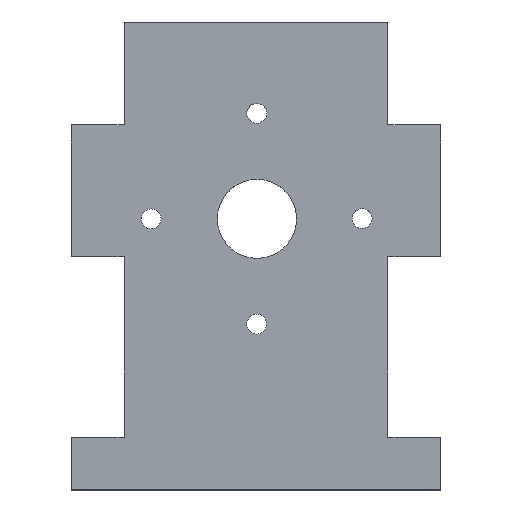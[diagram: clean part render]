
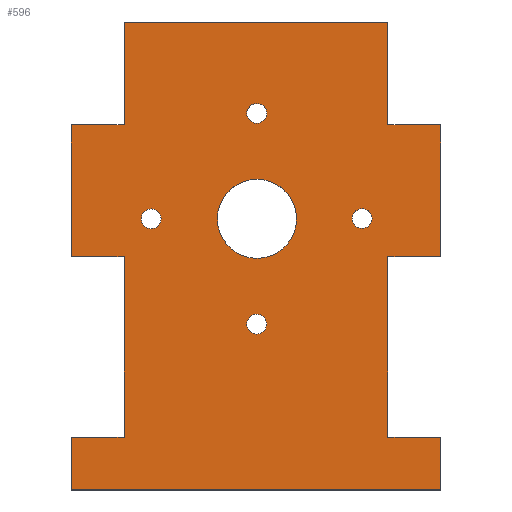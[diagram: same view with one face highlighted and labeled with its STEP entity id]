
A CAD part, top view. The second image highlights one B-rep face of the part: STEP entity #596.
In plain terms, the highlighted planar face has unit normal (0, 0, 1).
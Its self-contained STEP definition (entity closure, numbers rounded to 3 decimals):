
#19=FACE_BOUND('',#121,.T.);
#20=FACE_BOUND('',#122,.T.);
#21=FACE_BOUND('',#123,.T.);
#22=FACE_BOUND('',#124,.T.);
#23=FACE_BOUND('',#125,.T.);
#45=PLANE('',#659);
#85=FACE_OUTER_BOUND('',#120,.T.);
#120=EDGE_LOOP('',(#521,#522,#523,#524,#525,#526,#527,#528,#529,#530,#531,
#532,#533,#534,#535,#536));
#121=EDGE_LOOP('',(#537));
#122=EDGE_LOOP('',(#538));
#123=EDGE_LOOP('',(#539));
#124=EDGE_LOOP('',(#540));
#125=EDGE_LOOP('',(#541));
#147=LINE('',#896,#208);
#150=LINE('',#902,#211);
#153=LINE('',#908,#214);
#156=LINE('',#914,#217);
#159=LINE('',#920,#220);
#162=LINE('',#926,#223);
#165=LINE('',#932,#226);
#168=LINE('',#938,#229);
#171=LINE('',#944,#232);
#174=LINE('',#950,#235);
#177=LINE('',#956,#238);
#180=LINE('',#962,#241);
#183=LINE('',#968,#244);
#186=LINE('',#974,#247);
#189=LINE('',#980,#250);
#192=LINE('',#984,#253);
#208=VECTOR('',#742,10.);
#211=VECTOR('',#747,10.);
#214=VECTOR('',#752,10.);
#217=VECTOR('',#757,10.);
#220=VECTOR('',#762,10.);
#223=VECTOR('',#767,10.);
#226=VECTOR('',#772,10.);
#229=VECTOR('',#777,10.);
#232=VECTOR('',#782,10.);
#235=VECTOR('',#787,10.);
#238=VECTOR('',#792,10.);
#241=VECTOR('',#797,10.);
#244=VECTOR('',#802,10.);
#247=VECTOR('',#807,10.);
#250=VECTOR('',#812,10.);
#253=VECTOR('',#817,10.);
#262=CIRCLE('',#629,3.);
#264=CIRCLE('',#632,0.75);
#266=CIRCLE('',#635,0.75);
#268=CIRCLE('',#638,0.75);
#270=CIRCLE('',#641,0.75);
#284=VERTEX_POINT('',#860);
#286=VERTEX_POINT('',#866);
#288=VERTEX_POINT('',#872);
#290=VERTEX_POINT('',#878);
#292=VERTEX_POINT('',#884);
#296=VERTEX_POINT('',#893);
#297=VERTEX_POINT('',#895);
#299=VERTEX_POINT('',#901);
#301=VERTEX_POINT('',#907);
#303=VERTEX_POINT('',#913);
#305=VERTEX_POINT('',#919);
#307=VERTEX_POINT('',#925);
#309=VERTEX_POINT('',#931);
#311=VERTEX_POINT('',#937);
#313=VERTEX_POINT('',#943);
#315=VERTEX_POINT('',#949);
#317=VERTEX_POINT('',#955);
#319=VERTEX_POINT('',#961);
#321=VERTEX_POINT('',#967);
#323=VERTEX_POINT('',#973);
#325=VERTEX_POINT('',#979);
#342=EDGE_CURVE('',#284,#284,#262,.T.);
#345=EDGE_CURVE('',#286,#286,#264,.T.);
#348=EDGE_CURVE('',#288,#288,#266,.T.);
#351=EDGE_CURVE('',#290,#290,#268,.T.);
#354=EDGE_CURVE('',#292,#292,#270,.T.);
#359=EDGE_CURVE('',#297,#296,#147,.T.);
#362=EDGE_CURVE('',#299,#297,#150,.T.);
#365=EDGE_CURVE('',#301,#299,#153,.T.);
#368=EDGE_CURVE('',#303,#301,#156,.T.);
#371=EDGE_CURVE('',#305,#303,#159,.T.);
#374=EDGE_CURVE('',#307,#305,#162,.T.);
#377=EDGE_CURVE('',#309,#307,#165,.T.);
#380=EDGE_CURVE('',#311,#309,#168,.T.);
#383=EDGE_CURVE('',#313,#311,#171,.T.);
#386=EDGE_CURVE('',#315,#313,#174,.T.);
#389=EDGE_CURVE('',#317,#315,#177,.T.);
#392=EDGE_CURVE('',#319,#317,#180,.T.);
#395=EDGE_CURVE('',#321,#319,#183,.T.);
#398=EDGE_CURVE('',#323,#321,#186,.T.);
#401=EDGE_CURVE('',#325,#323,#189,.T.);
#404=EDGE_CURVE('',#296,#325,#192,.T.);
#521=ORIENTED_EDGE('',*,*,#404,.T.);
#522=ORIENTED_EDGE('',*,*,#401,.T.);
#523=ORIENTED_EDGE('',*,*,#398,.T.);
#524=ORIENTED_EDGE('',*,*,#395,.T.);
#525=ORIENTED_EDGE('',*,*,#392,.T.);
#526=ORIENTED_EDGE('',*,*,#389,.T.);
#527=ORIENTED_EDGE('',*,*,#386,.T.);
#528=ORIENTED_EDGE('',*,*,#383,.T.);
#529=ORIENTED_EDGE('',*,*,#380,.T.);
#530=ORIENTED_EDGE('',*,*,#377,.T.);
#531=ORIENTED_EDGE('',*,*,#374,.T.);
#532=ORIENTED_EDGE('',*,*,#371,.T.);
#533=ORIENTED_EDGE('',*,*,#368,.T.);
#534=ORIENTED_EDGE('',*,*,#365,.T.);
#535=ORIENTED_EDGE('',*,*,#362,.T.);
#536=ORIENTED_EDGE('',*,*,#359,.T.);
#537=ORIENTED_EDGE('',*,*,#354,.T.);
#538=ORIENTED_EDGE('',*,*,#351,.T.);
#539=ORIENTED_EDGE('',*,*,#348,.T.);
#540=ORIENTED_EDGE('',*,*,#345,.T.);
#541=ORIENTED_EDGE('',*,*,#342,.T.);
#596=ADVANCED_FACE('',(#85,#19,#20,#21,#22,#23),#45,.T.);
#629=AXIS2_PLACEMENT_3D('',#861,#705,#706);
#632=AXIS2_PLACEMENT_3D('',#867,#712,#713);
#635=AXIS2_PLACEMENT_3D('',#873,#719,#720);
#638=AXIS2_PLACEMENT_3D('',#879,#726,#727);
#641=AXIS2_PLACEMENT_3D('',#885,#733,#734);
#659=AXIS2_PLACEMENT_3D('',#985,#818,#819);
#705=DIRECTION('center_axis',(0.,0.,-1.));
#706=DIRECTION('ref_axis',(-1.,0.,0.));
#712=DIRECTION('center_axis',(0.,0.,-1.));
#713=DIRECTION('ref_axis',(-1.,0.,0.));
#719=DIRECTION('center_axis',(0.,0.,-1.));
#720=DIRECTION('ref_axis',(-1.,0.,0.));
#726=DIRECTION('center_axis',(0.,0.,-1.));
#727=DIRECTION('ref_axis',(-1.,0.,0.));
#733=DIRECTION('center_axis',(0.,0.,-1.));
#734=DIRECTION('ref_axis',(-1.,0.,0.));
#742=DIRECTION('',(1.,0.,0.));
#747=DIRECTION('',(0.,-1.,0.));
#752=DIRECTION('',(-1.,0.,0.));
#757=DIRECTION('',(0.,-1.,0.));
#762=DIRECTION('',(-1.,0.,0.));
#767=DIRECTION('',(0.,1.,0.));
#772=DIRECTION('',(-1.,0.,0.));
#777=DIRECTION('',(0.,1.,0.));
#782=DIRECTION('',(1.,0.,0.));
#787=DIRECTION('',(0.,1.,0.));
#792=DIRECTION('',(-1.,0.,0.));
#797=DIRECTION('',(0.,1.,0.));
#802=DIRECTION('',(1.,0.,0.));
#807=DIRECTION('',(0.,-1.,0.));
#812=DIRECTION('',(-1.,0.,0.));
#817=DIRECTION('',(0.,-1.,0.));
#818=DIRECTION('center_axis',(0.,0.,1.));
#819=DIRECTION('ref_axis',(-1.,0.,0.));
#860=CARTESIAN_POINT('',(-2.846,-125.584,66.585));
#861=CARTESIAN_POINT('Origin',(-5.846,-125.584,66.585));
#866=CARTESIAN_POINT('',(2.884,-125.567,66.585));
#867=CARTESIAN_POINT('Origin',(2.134,-125.567,66.585));
#872=CARTESIAN_POINT('',(-13.12,-125.582,66.585));
#873=CARTESIAN_POINT('Origin',(-13.87,-125.582,66.585));
#878=CARTESIAN_POINT('',(-5.115,-133.572,66.585));
#879=CARTESIAN_POINT('Origin',(-5.865,-133.572,66.585));
#884=CARTESIAN_POINT('',(-5.114,-117.59,66.585));
#885=CARTESIAN_POINT('Origin',(-5.864,-117.59,66.585));
#893=CARTESIAN_POINT('',(-15.918,-128.464,66.585));
#895=CARTESIAN_POINT('',(-19.918,-128.464,66.585));
#896=CARTESIAN_POINT('',(-19.918,-128.464,66.585));
#901=CARTESIAN_POINT('',(-19.918,-118.464,66.585));
#902=CARTESIAN_POINT('',(-19.918,-118.464,66.585));
#907=CARTESIAN_POINT('',(-15.918,-118.464,66.585));
#908=CARTESIAN_POINT('',(-15.918,-118.464,66.585));
#913=CARTESIAN_POINT('',(-15.918,-110.664,66.585));
#914=CARTESIAN_POINT('',(-15.918,-110.664,66.585));
#919=CARTESIAN_POINT('',(4.082,-110.664,66.585));
#920=CARTESIAN_POINT('',(4.082,-110.664,66.585));
#925=CARTESIAN_POINT('',(4.082,-118.464,66.585));
#926=CARTESIAN_POINT('',(4.082,-118.464,66.585));
#931=CARTESIAN_POINT('',(8.082,-118.464,66.585));
#932=CARTESIAN_POINT('',(8.082,-118.464,66.585));
#937=CARTESIAN_POINT('',(8.082,-128.464,66.585));
#938=CARTESIAN_POINT('',(8.082,-128.464,66.585));
#943=CARTESIAN_POINT('',(4.082,-128.464,66.585));
#944=CARTESIAN_POINT('',(4.082,-128.464,66.585));
#949=CARTESIAN_POINT('',(4.082,-142.137,66.585));
#950=CARTESIAN_POINT('',(4.082,-142.137,66.585));
#955=CARTESIAN_POINT('',(8.082,-142.137,66.585));
#956=CARTESIAN_POINT('',(8.082,-142.137,66.585));
#961=CARTESIAN_POINT('',(8.082,-146.137,66.585));
#962=CARTESIAN_POINT('',(8.082,-146.137,66.585));
#967=CARTESIAN_POINT('',(-19.918,-146.137,66.585));
#968=CARTESIAN_POINT('',(-19.918,-146.137,66.585));
#973=CARTESIAN_POINT('',(-19.918,-142.137,66.585));
#974=CARTESIAN_POINT('',(-19.918,-142.137,66.585));
#979=CARTESIAN_POINT('',(-15.918,-142.137,66.585));
#980=CARTESIAN_POINT('',(-15.918,-142.137,66.585));
#984=CARTESIAN_POINT('',(-15.918,-128.464,66.585));
#985=CARTESIAN_POINT('Origin',(-5.918,-128.4,66.585));
